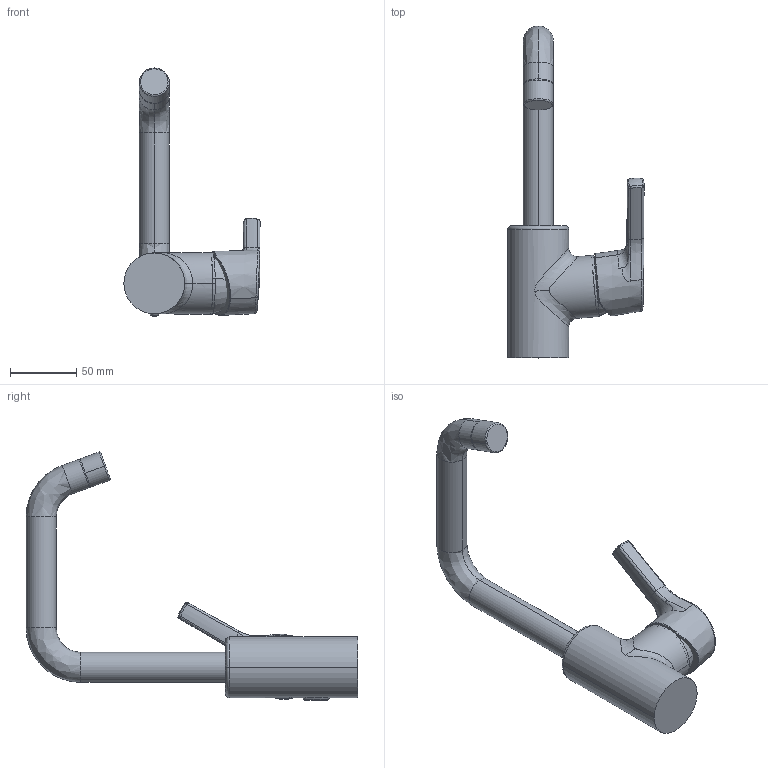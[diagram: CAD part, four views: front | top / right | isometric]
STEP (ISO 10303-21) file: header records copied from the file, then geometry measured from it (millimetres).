
FILE_DESCRIPTION (( 'STEP AP203' ), '1' );
FILE_NAME ('3907FH(2018).STEP', '2018-04-10T09:48:35', ( '' ), ( '' ), 'SwSTEP 2.0', 'SolidWorks 2016', '' );
FILE_SCHEMA (( 'CONFIG_CONTROL_DESIGN' ));
Length unit declared in the file: millimetre
Products named in the file (1): 3907FH(2018)
Bounding box: 102.94 x 250.6 x 187.46 mm (x, y, z)
Volume: 424702.6 mm3; surface area: 61228.5 mm2
Topology: 6 solids, 6 shells, 94 faces, 218 edges, 136 vertices
Faces by surface type: bspline 49, cylinder 17, plane 11, torus 10, cone 5, sphere 2
Entity records: 16128 total; most frequent: CARTESIAN_POINT 14299, ORIENTED_EDGE 436, DIRECTION 253, EDGE_CURVE 218, VERTEX_POINT 136, B_SPLINE_CURVE_WITH_KNOTS 118, AXIS2_PLACEMENT_3D 115, ADVANCED_FACE 94
